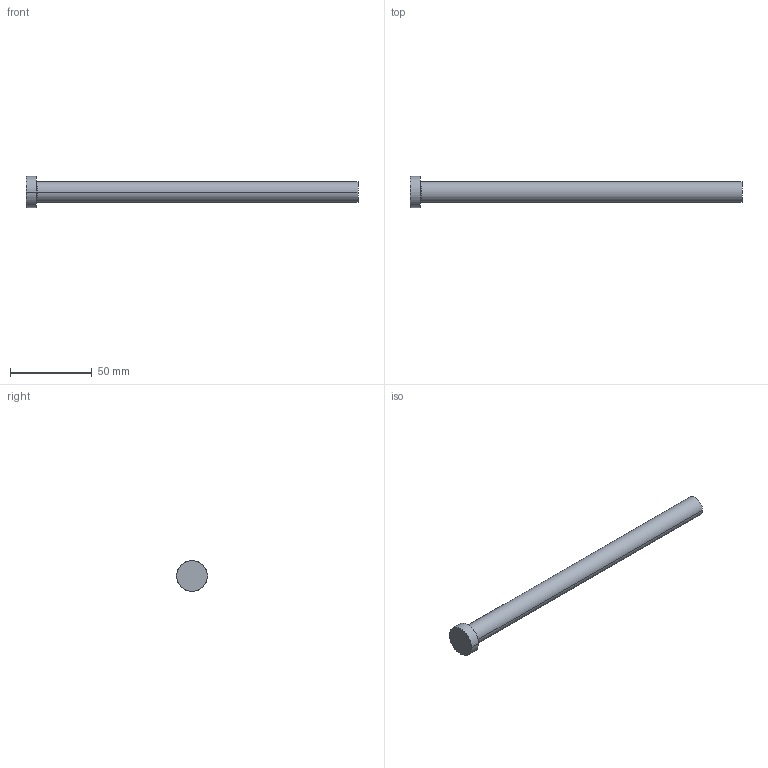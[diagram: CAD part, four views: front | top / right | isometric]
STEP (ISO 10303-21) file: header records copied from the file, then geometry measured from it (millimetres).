
FILE_DESCRIPTION (( 'STEP AP214' ), '1' );
FILE_NAME ('P33-8.STEP', '2020-03-12T10:59:46', ( '' ), ( '' ), 'SwSTEP 2.0', 'SolidWorks 2018', '' );
FILE_SCHEMA (( 'AUTOMOTIVE_DESIGN' ));
Length unit declared in the file: inch
Products named in the file (1): P33-8
Bounding box: 203.2 x 19.05 x 19.05 mm (x, y, z)
Volume: 26720.8 mm3; surface area: 8779.4 mm2
Topology: 1 solids, 1 shells, 13 faces, 24 edges, 14 vertices
Faces by surface type: cone 4, cylinder 4, plane 3, torus 2
Entity records: 366 total; most frequent: DIRECTION 68, CARTESIAN_POINT 52, ORIENTED_EDGE 48, AXIS2_PLACEMENT_3D 30, EDGE_CURVE 24, CIRCLE 16, EDGE_LOOP 14, VERTEX_POINT 14
